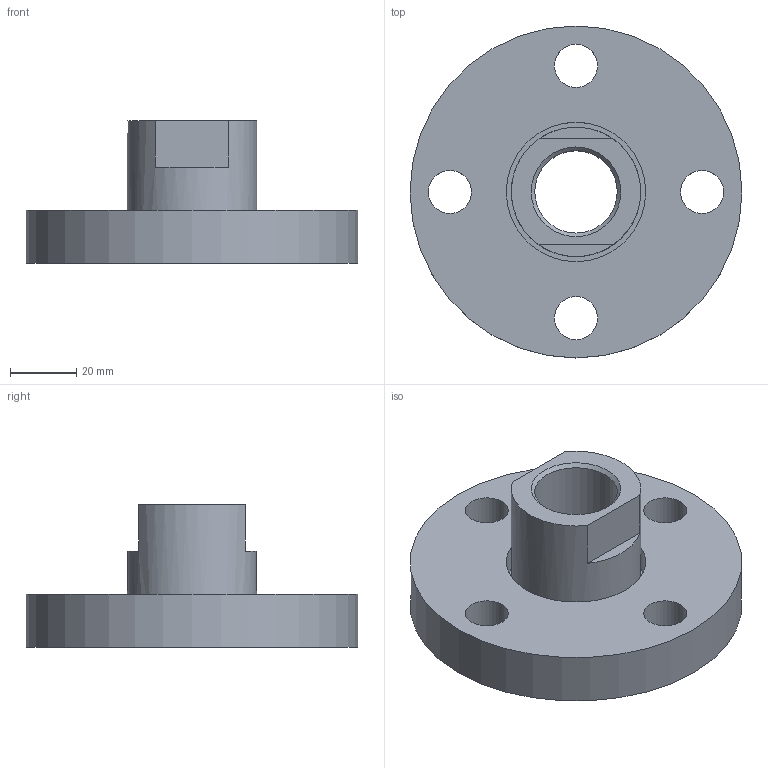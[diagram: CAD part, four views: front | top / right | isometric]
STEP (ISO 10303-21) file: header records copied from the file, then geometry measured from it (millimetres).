
FILE_DESCRIPTION( ( 'STEP AP214' ), '1' );
FILE_NAME( 'U:/Etudes/Top Solid/BIBLIO 3D AVM/TOP/PNEUMATIQUE/GUIDAGES/Accessoires/Accouplements/5133009.step', '2005-05-27T08:30:39', ( ' ' ), ( ' ' ), 'XStep 1.0', ' ', ' ' );
FILE_SCHEMA( ( 'automotive_design' ) );
Length unit declared in the file: metre
Products named in the file (1): 1
Bounding box: 100 x 100 x 43 mm (x, y, z)
Volume: 125534.2 mm3; surface area: 29928.2 mm2
Topology: 1 solids, 1 shells, 17 faces, 38 edges, 25 vertices
Faces by surface type: plane 8, cylinder 8, cone 1
Full cylindrical faces by diameter (mm): 13 x4, 24.835 x1, 39 x1, 42 x1, 100 x1
Entity records: 602 total; most frequent: DIRECTION 84, CARTESIAN_POINT 70, ORIENTED_EDGE 56, AXIS2_PLACEMENT_3D 38, EDGE_LOOP 38, EDGE_CURVE 28, FACE_OUTER_BOUND 25, VERTEX_POINT 24
